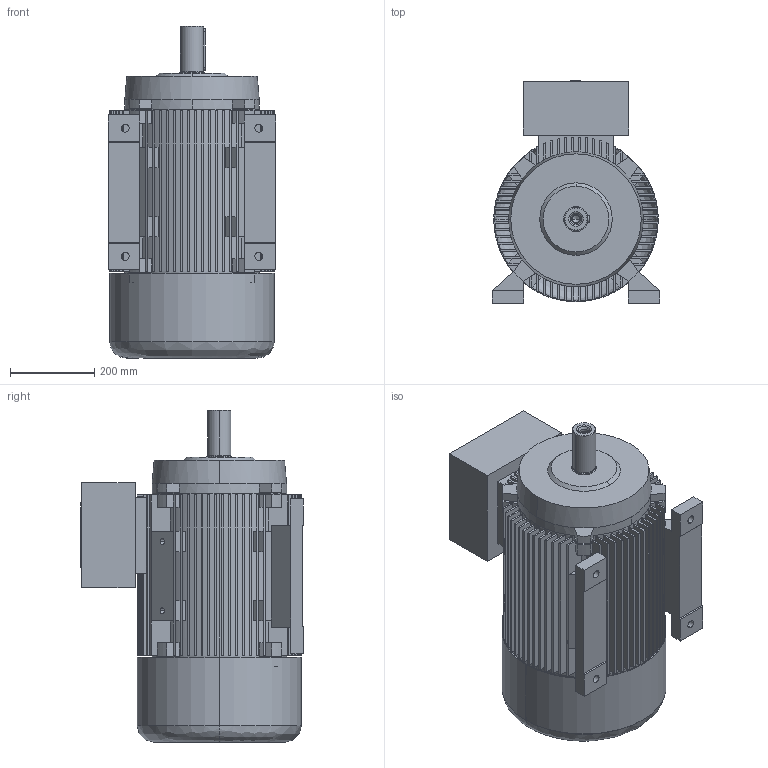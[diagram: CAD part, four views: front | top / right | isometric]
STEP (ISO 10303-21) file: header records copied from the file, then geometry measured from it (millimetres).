
FILE_DESCRIPTION (( 'STEP AP203' ), '1' );
FILE_NAME ('20.18371_A 7AZ 200 B3 STANDK.STEP', '2018-03-29T12:40:46', ( '' ), ( '' ), 'SwSTEP 2.0', 'SolidWorks 2017', '' );
FILE_SCHEMA (( 'CONFIG_CONTROL_DESIGN' ));
Length unit declared in the file: millimetre
Products named in the file (1): 20.18371_A  7AZ 200 B3 STANDK
Bounding box: 398 x 530 x 790 mm (x, y, z)
Volume: 29552322.9 mm3; surface area: 4324084.5 mm2
Topology: 16 solids, 16 shells, 805 faces, 2133 edges, 1395 vertices
Faces by surface type: plane 582, cylinder 172, cone 38, bspline 13
Entity records: 25621 total; most frequent: CARTESIAN_POINT 5197, DIRECTION 4255, ORIENTED_EDGE 4230, EDGE_CURVE 2115, LINE 1493, VECTOR 1493, VERTEX_POINT 1395, AXIS2_PLACEMENT_3D 1381
